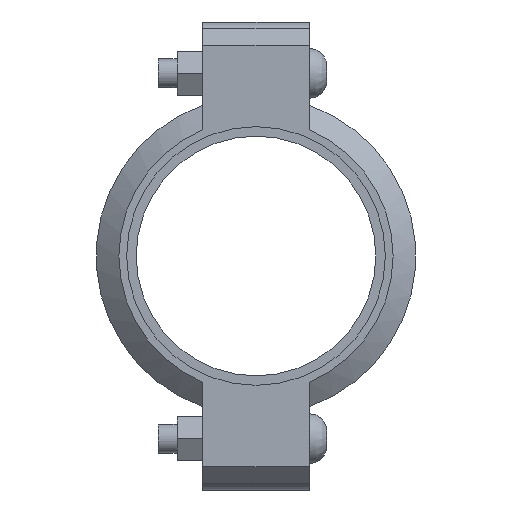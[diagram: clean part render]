
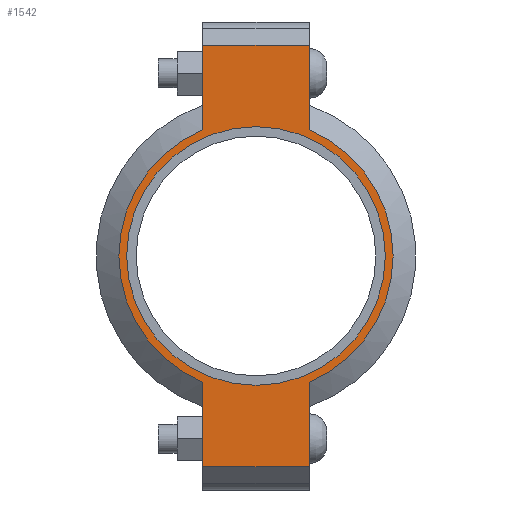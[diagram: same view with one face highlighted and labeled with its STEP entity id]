
A CAD part, left-side view. The second image highlights one B-rep face of the part: STEP entity #1542.
In plain terms, the highlighted planar face has unit normal (-1, 0, 0) as drawn and (0, 0, 1) by its records, which use the part's own axes.
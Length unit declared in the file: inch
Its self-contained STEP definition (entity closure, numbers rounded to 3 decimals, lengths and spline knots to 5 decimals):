
#166=LINE('',#2691,#259);
#174=LINE('',#2727,#267);
#181=LINE('',#2748,#274);
#190=LINE('',#2780,#283);
#191=LINE('',#2784,#284);
#192=LINE('',#2786,#285);
#259=VECTOR('',#2195,0.3937);
#267=VECTOR('',#2211,0.3937);
#274=VECTOR('',#2230,0.3937);
#283=VECTOR('',#2255,0.3937);
#284=VECTOR('',#2260,0.3937);
#285=VECTOR('',#2261,0.3937);
#341=FACE_BOUND('',#519,.T.);
#413=FACE_OUTER_BOUND('',#518,.T.);
#518=EDGE_LOOP('',(#1283,#1284,#1285,#1286,#1287,#1288,#1289,#1290));
#519=EDGE_LOOP('',(#1291));
#591=CIRCLE('',#1761,2.7815);
#617=CIRCLE('',#1820,2.95);
#618=CIRCLE('',#1821,2.95);
#683=VERTEX_POINT('',#2507);
#726=VERTEX_POINT('',#2688);
#727=VERTEX_POINT('',#2690);
#738=VERTEX_POINT('',#2722);
#739=VERTEX_POINT('',#2726);
#746=VERTEX_POINT('',#2745);
#747=VERTEX_POINT('',#2747);
#757=VERTEX_POINT('',#2783);
#758=VERTEX_POINT('',#2785);
#839=EDGE_CURVE('',#683,#683,#591,.T.);
#900=EDGE_CURVE('',#727,#726,#166,.T.);
#914=EDGE_CURVE('',#739,#738,#174,.T.);
#924=EDGE_CURVE('',#747,#746,#181,.T.);
#939=EDGE_CURVE('',#739,#726,#190,.T.);
#940=EDGE_CURVE('',#738,#747,#617,.T.);
#941=EDGE_CURVE('',#757,#746,#191,.T.);
#942=EDGE_CURVE('',#757,#758,#192,.T.);
#943=EDGE_CURVE('',#758,#727,#618,.T.);
#1283=ORIENTED_EDGE('',*,*,#939,.F.);
#1284=ORIENTED_EDGE('',*,*,#914,.T.);
#1285=ORIENTED_EDGE('',*,*,#940,.T.);
#1286=ORIENTED_EDGE('',*,*,#924,.T.);
#1287=ORIENTED_EDGE('',*,*,#941,.F.);
#1288=ORIENTED_EDGE('',*,*,#942,.T.);
#1289=ORIENTED_EDGE('',*,*,#943,.T.);
#1290=ORIENTED_EDGE('',*,*,#900,.T.);
#1291=ORIENTED_EDGE('',*,*,#839,.T.);
#1384=PLANE('',#1819);
#1542=ADVANCED_FACE('',(#413,#341),#1384,.T.);
#1761=AXIS2_PLACEMENT_3D('',#2509,#2071,#2072);
#1819=AXIS2_PLACEMENT_3D('',#2781,#2256,#2257);
#1820=AXIS2_PLACEMENT_3D('',#2782,#2258,#2259);
#1821=AXIS2_PLACEMENT_3D('',#2787,#2262,#2263);
#2071=DIRECTION('center_axis',(0.,0.,-1.));
#2072=DIRECTION('ref_axis',(-1.,0.,0.));
#2195=DIRECTION('',(-1.,0.,0.));
#2211=DIRECTION('',(1.,0.,0.));
#2230=DIRECTION('',(1.,0.,0.));
#2255=DIRECTION('',(0.,1.,0.));
#2256=DIRECTION('center_axis',(0.,0.,1.));
#2257=DIRECTION('ref_axis',(1.,0.,0.));
#2258=DIRECTION('center_axis',(0.,0.,1.));
#2259=DIRECTION('ref_axis',(-1.,0.,0.));
#2260=DIRECTION('',(0.,-1.,0.));
#2261=DIRECTION('',(-1.,0.,0.));
#2262=DIRECTION('center_axis',(0.,0.,1.));
#2263=DIRECTION('ref_axis',(-1.,0.,0.));
#2507=CARTESIAN_POINT('',(2.7815,0.,1.065));
#2509=CARTESIAN_POINT('Origin',(0.,0.,1.065));
#2688=CARTESIAN_POINT('',(-4.535,1.15,1.065));
#2690=CARTESIAN_POINT('',(-2.71662,1.15,1.065));
#2691=CARTESIAN_POINT('',(-5.035,1.15,1.065));
#2722=CARTESIAN_POINT('',(-2.71662,-1.15,1.065));
#2726=CARTESIAN_POINT('',(-4.535,-1.15,1.065));
#2727=CARTESIAN_POINT('',(5.035,-1.15,1.065));
#2745=CARTESIAN_POINT('',(4.535,-1.15,1.065));
#2747=CARTESIAN_POINT('',(2.71662,-1.15,1.065));
#2748=CARTESIAN_POINT('',(5.035,-1.15,1.065));
#2780=CARTESIAN_POINT('',(-4.535,0.575,1.065));
#2781=CARTESIAN_POINT('Origin',(0.,0.,1.065));
#2782=CARTESIAN_POINT('Origin',(0.,0.,1.065));
#2783=CARTESIAN_POINT('',(4.535,1.15,1.065));
#2784=CARTESIAN_POINT('',(4.535,-0.575,1.065));
#2785=CARTESIAN_POINT('',(2.71662,1.15,1.065));
#2786=CARTESIAN_POINT('',(-5.035,1.15,1.065));
#2787=CARTESIAN_POINT('Origin',(0.,0.,1.065));
